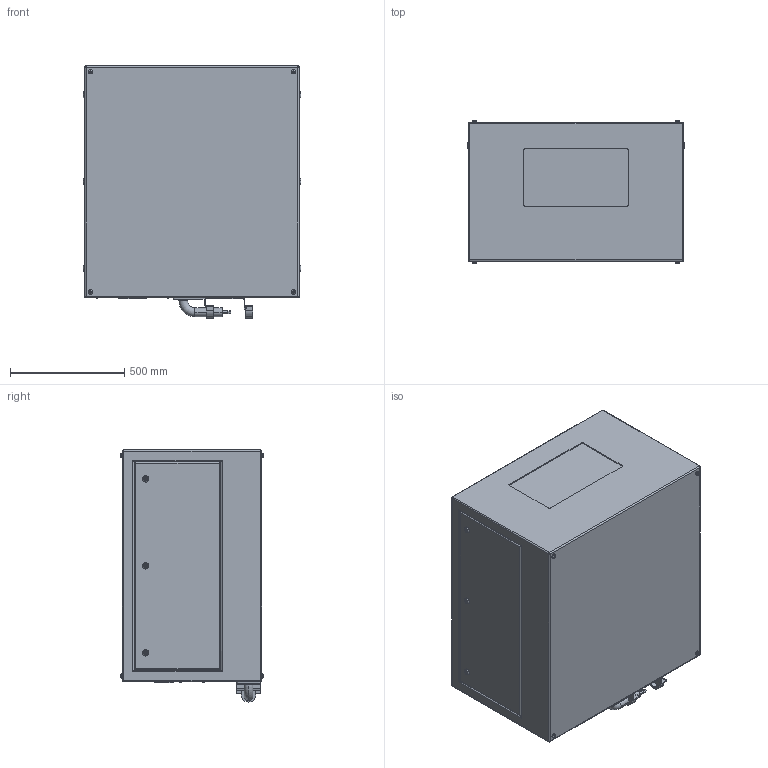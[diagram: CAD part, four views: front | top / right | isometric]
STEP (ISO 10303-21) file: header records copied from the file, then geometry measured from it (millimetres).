
FILE_DESCRIPTION (( 'STEP AP214' ), '1' );
FILE_NAME ('Oasis 59.125.L R02.STEP', '2022-09-12T23:34:24', ( '' ), ( '' ), 'SwSTEP 2.0', 'SolidWorks 2020', '' );
FILE_SCHEMA (( 'AUTOMOTIVE_DESIGN' ));
Length unit declared in the file: inch
Products named in the file (1): Oasis 59.125.L R02
Bounding box: 952.5 x 626.87 x 1104.9 mm (x, y, z)
Volume: 581460384.1 mm3; surface area: 4721365.3 mm2
Topology: 3 solids, 9 shells, 480 faces, 1099 edges, 696 vertices
Faces by surface type: plane 261, cylinder 169, torus 42, bspline 8
Entity records: 18195 total; most frequent: CARTESIAN_POINT 2788, DIRECTION 2391, ORIENTED_EDGE 2182, EDGE_CURVE 1091, AXIS2_PLACEMENT_3D 859, VERTEX_POINT 696, VECTOR 673, LINE 673
